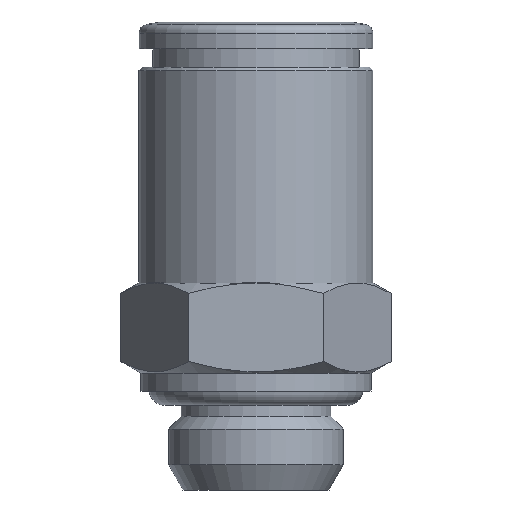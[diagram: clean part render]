
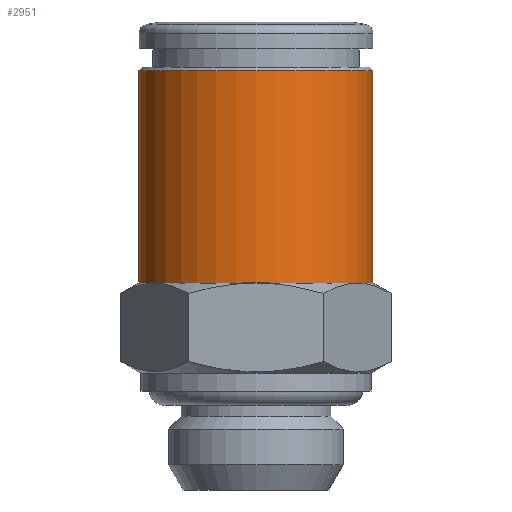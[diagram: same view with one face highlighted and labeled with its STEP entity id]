
A CAD part, front view. The second image highlights one B-rep face of the part: STEP entity #2951.
In plain terms, the highlighted cylindrical face has radius 6.5 mm (diameter 13 mm), a full revolution.
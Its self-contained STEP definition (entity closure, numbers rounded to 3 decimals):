
#937=ORIENTED_EDGE('',*,*,#1303,.T.);
#938=ORIENTED_EDGE('',*,*,#1301,.T.);
#939=ORIENTED_EDGE('',*,*,#1304,.T.);
#940=ORIENTED_EDGE('',*,*,#1305,.T.);
#941=ORIENTED_EDGE('',*,*,#1306,.T.);
#942=ORIENTED_EDGE('',*,*,#1307,.T.);
#943=ORIENTED_EDGE('',*,*,#1308,.T.);
#1139=CIRCLE('',#2826,6.5);
#1140=CIRCLE('',#2829,6.5);
#1141=CIRCLE('',#2830,6.5);
#1142=CIRCLE('',#2831,6.5);
#1143=CIRCLE('',#2832,6.5);
#1144=CIRCLE('',#2833,6.5);
#1145=CIRCLE('',#2834,6.5);
#1209=VERTEX_POINT('',#2598);
#1212=VERTEX_POINT('',#2606);
#1213=VERTEX_POINT('',#2610);
#1214=VERTEX_POINT('',#2612);
#1215=VERTEX_POINT('',#2614);
#1216=VERTEX_POINT('',#2616);
#1217=VERTEX_POINT('',#2618);
#1301=EDGE_CURVE('',#1212,#1209,#1139,.T.);
#1303=EDGE_CURVE('',#1213,#1213,#1140,.T.);
#1304=EDGE_CURVE('',#1209,#1214,#1141,.T.);
#1305=EDGE_CURVE('',#1214,#1215,#1142,.T.);
#1306=EDGE_CURVE('',#1215,#1216,#1143,.T.);
#1307=EDGE_CURVE('',#1216,#1217,#1144,.T.);
#1308=EDGE_CURVE('',#1217,#1212,#1145,.T.);
#1397=EDGE_LOOP('',(#937));
#1398=EDGE_LOOP('',(#938,#939,#940,#941,#942,#943));
#1499=FACE_BOUND('',#1397,.T.);
#1500=FACE_BOUND('',#1398,.T.);
#1581=CYLINDRICAL_SURFACE('',#2828,6.5);
#2263=DIRECTION('',(0.,1.,0.));
#2264=DIRECTION('',(-5.629,0.,3.25));
#2267=DIRECTION('',(0.,1.,0.));
#2268=DIRECTION('',(1.,0.,0.));
#2269=DIRECTION('',(0.,-1.,0.));
#2270=DIRECTION('',(0.,0.,6.5));
#2271=DIRECTION('',(0.,1.,0.));
#2272=DIRECTION('',(0.,0.,6.5));
#2273=DIRECTION('',(0.,1.,0.));
#2274=DIRECTION('',(5.629,0.,3.25));
#2275=DIRECTION('',(0.,1.,0.));
#2276=DIRECTION('',(5.629,0.,-3.25));
#2277=DIRECTION('',(0.,1.,0.));
#2278=DIRECTION('',(0.,0.,-6.5));
#2279=DIRECTION('',(0.,1.,0.));
#2280=DIRECTION('',(-5.629,0.,-3.25));
#2598=CARTESIAN_POINT('',(6.826,15.51,6.5));
#2606=CARTESIAN_POINT('',(1.197,15.51,3.25));
#2607=CARTESIAN_POINT('',(6.826,15.51,0.));
#2609=CARTESIAN_POINT('',(6.826,15.51,0.));
#2610=CARTESIAN_POINT('',(6.826,27.31,6.5));
#2611=CARTESIAN_POINT('',(6.826,27.31,0.));
#2612=CARTESIAN_POINT('',(12.456,15.51,3.25));
#2613=CARTESIAN_POINT('',(6.826,15.51,0.));
#2614=CARTESIAN_POINT('',(12.456,15.51,-3.25));
#2615=CARTESIAN_POINT('',(6.826,15.51,0.));
#2616=CARTESIAN_POINT('',(6.826,15.51,-6.5));
#2617=CARTESIAN_POINT('',(6.826,15.51,0.));
#2618=CARTESIAN_POINT('',(1.197,15.51,-3.25));
#2619=CARTESIAN_POINT('',(6.826,15.51,0.));
#2620=CARTESIAN_POINT('',(6.826,15.51,0.));
#2826=AXIS2_PLACEMENT_3D('',#2607,#2263,#2264);
#2828=AXIS2_PLACEMENT_3D('',#2609,#2267,#2268);
#2829=AXIS2_PLACEMENT_3D('',#2611,#2269,#2270);
#2830=AXIS2_PLACEMENT_3D('',#2613,#2271,#2272);
#2831=AXIS2_PLACEMENT_3D('',#2615,#2273,#2274);
#2832=AXIS2_PLACEMENT_3D('',#2617,#2275,#2276);
#2833=AXIS2_PLACEMENT_3D('',#2619,#2277,#2278);
#2834=AXIS2_PLACEMENT_3D('',#2620,#2279,#2280);
#2951=ADVANCED_FACE('',(#1499,#1500),#1581,.T.);
